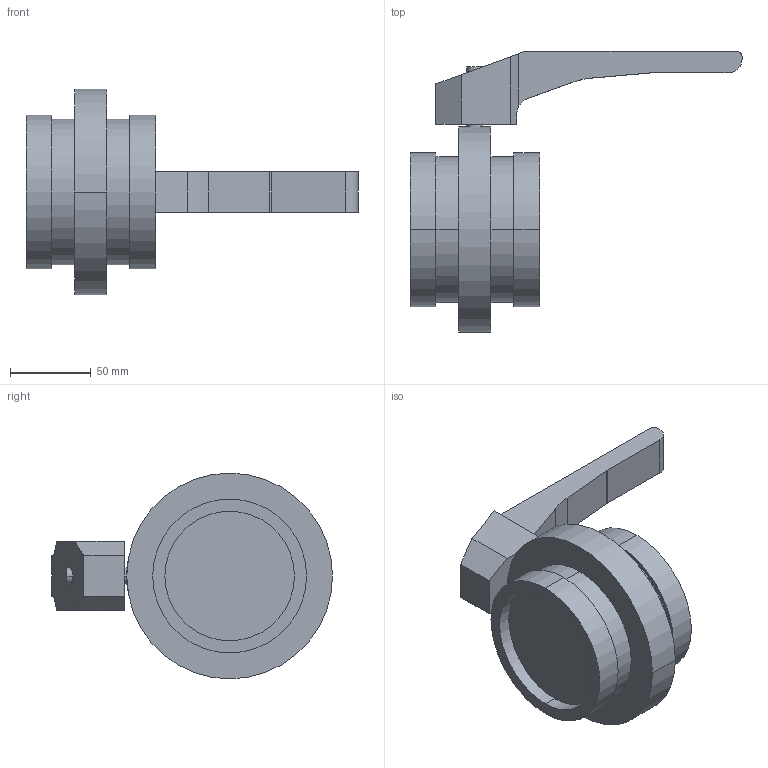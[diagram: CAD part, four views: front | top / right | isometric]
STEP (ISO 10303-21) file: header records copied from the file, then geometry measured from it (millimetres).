
FILE_DESCRIPTION(('Creo Elements/Direct Modeling STEP Export'),'2;1');
FILE_NAME('SV1-65-H-12G.stp','2012-03-20T14:31:11',(''),(''),'Creo Elements/Direct Modeling STEP processor for AP214 (Solid Model)','Creo Elements/Direct Modeling 17.0D 15-Jul-2011 (C) Parametric Technology GmbH','');
FILE_SCHEMA(('AUTOMOTIVE_DESIGN { 1 0 10303 214 1 1 1 1 }'));
Length unit declared in the file: millimetre
Products named in the file (3): Handhebel-SV-40-100; SV1-65-H-12G
Assembly tree (2 placements, depth 2):
  SV1-65-H-12G
    SV1-65-H-12G
    Handhebel-SV-40-100
Bounding box: 205 x 173.5 x 127 mm (x, y, z)
Volume: 705196.6 mm3; surface area: 78824.3 mm2
Topology: 2 solids, 2 shells, 50 faces, 117 edges, 78 vertices
Faces by surface type: plane 27, cylinder 23
Entity records: 1818 total; most frequent: CARTESIAN_POINT 627, ORIENTED_EDGE 234, DIRECTION 229, EDGE_CURVE 117, AXIS2_PLACEMENT_3D 82, VERTEX_POINT 78, VECTOR 65, LINE 65
